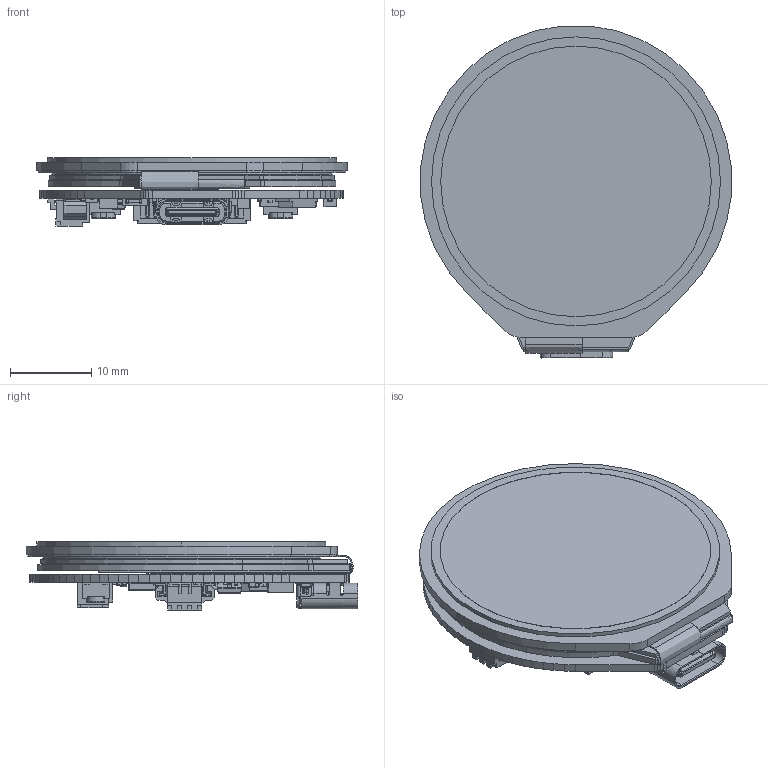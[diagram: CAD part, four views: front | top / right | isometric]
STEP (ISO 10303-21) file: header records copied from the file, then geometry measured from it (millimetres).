
FILE_DESCRIPTION((''),'2;1');
FILE_NAME('ESP32-S3-TOUCH-LCD-1_28-CASE_ASM','2024-03-20T11:14:24',('xiaojisheng'),(''),'CREO PARAMETRIC BY PTC INC, 2021063','CREO PARAMETRIC BY PTC INC, 2021063','');
FILE_SCHEMA(('CONFIG_CONTROL_DESIGN','SHAPE_APPEARANCE_LAYERS_GROUPS'));
Products named in the file (173): 1_28INCH-240X240-TFT; 1_28INCH-240X240-TFT-TOUCH; RP2040-LCD-1_28-TFT_TP_ASM; BOARD; POCKET; LEGS_SEITE_2; LEGS_SEITE_1; USER_LIBRARY-VSOP8_ASM; U8_ASM; USER_LIBRARY-RES_0603-0201_1; USER_LIBRARY-RES_0603-0201_2; USER_LIBRARY-RES_0603-0201_3; USER_LIBRARY-RES_0603-0201_4; USER_LIBRARY-RES_0603-0201_ASM; R11_ASM; R10_ASM; 2_A; 300; _10001; C_0201-1099_AF1_ASM_ASM; C_0201-4408_AF1_ASM_ASM; 3D_MODEL_ASM; C21_ASM; _1_10001; 3_1_A; 2_100; C_0402-672_AF0_ASM_ASM; C_0402-4045_AF0_ASM_ASM; C_0402_ASM; C20_ASM; C19_ASM; EXTRUDED-86219; 1057508144_ASM; EXTRUDED-86616; 1057507888_ASM; U7_ASM; IND1_ASM; R7_ASM; R6_ASM; IND2_ASM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
Assembly tree (225 placements, depth 8):
  ESP32-S3-TOUCH-LCD-1_28-CASE_ASM
    RP2040-LCD-1_28-TFT_TP_ASM
      1_28INCH-240X240-TFT
      1_28INCH-240X240-TFT-TOUCH
    ESP32-S3-TOUCH-LCD-1_28-PCBA_ASM
      PCB_ASM
        BOARD
        U8_ASM
          USER_LIBRARY-VSOP8_ASM
            POCKET
            LEGS_SEITE_2
            LEGS_SEITE_1
        R11_ASM
          USER_LIBRARY-RES_0603-0201_ASM
            USER_LIBRARY-RES_0603-0201_1
            USER_LIBRARY-RES_0603-0201_2
            USER_LIBRARY-RES_0603-0201_3
            USER_LIBRARY-RES_0603-0201_4
        R10_ASM
          USER_LIBRARY-RES_0603-0201_ASM
            USER_LIBRARY-RES_0603-0201_1
            USER_LIBRARY-RES_0603-0201_2
            USER_LIBRARY-RES_0603-0201_3
            USER_LIBRARY-RES_0603-0201_4
        C21_ASM
          3D_MODEL_ASM
            C_0201-4408_AF1_ASM_ASM
              C_0201-1099_AF1_ASM_ASM
                2_A
                300
                _10001
        C20_ASM
          C_0402_ASM
            C_0402-4045_AF0_ASM_ASM
              C_0402-672_AF0_ASM_ASM
                _1_10001
                3_1_A
                2_100
        C19_ASM
          3D_MODEL_ASM
            C_0201-4408_AF1_ASM_ASM
              C_0201-1099_AF1_ASM_ASM
                2_A
                300
                _10001
        U7_ASM
          1057508144_ASM  x6
            EXTRUDED-86219
          1057507888_ASM
            EXTRUDED-86616
        IND1_ASM
          USER_LIBRARY-RES_0603-0201_ASM
            USER_LIBRARY-RES_0603-0201_1
            USER_LIBRARY-RES_0603-0201_2
            USER_LIBRARY-RES_0603-0201_3
            USER_LIBRARY-RES_0603-0201_4
        R7_ASM
          USER_LIBRARY-RES_0603-0201_ASM
            USER_LIBRARY-RES_0603-0201_1
            USER_LIBRARY-RES_0603-0201_2
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Bounding box: 38.36 x 40.96 x 8.4 mm (x, y, z)
Volume: 5311.6 mm3; surface area: 9970.6 mm2
Topology: 230 solids, 242 shells, 14927 faces, 39148 edges, 25601 vertices
Faces by surface type: plane 11089, extrusion 2037, cylinder 1509, sphere 250, cone 36, torus 4, bspline 2
Entity records: 222516 total; most frequent: CARTESIAN_POINT 47652, ORIENTED_EDGE 29178, DIRECTION 26538, EDGE_CURVE 14589, VECTOR 12178, LINE 11665, PRESENTATION_STYLE_ASSIGNMENT 10870, STYLED_ITEM 10363
